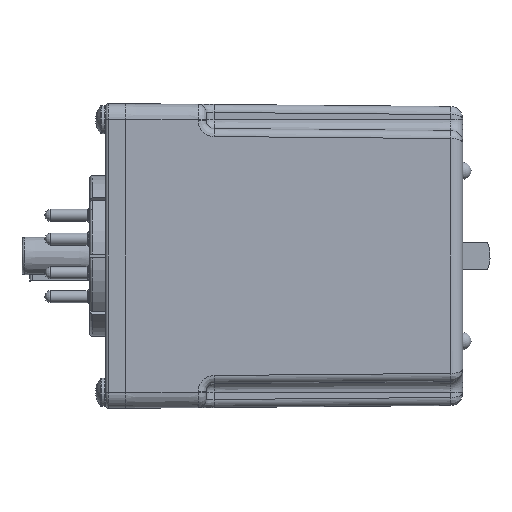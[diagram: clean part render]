
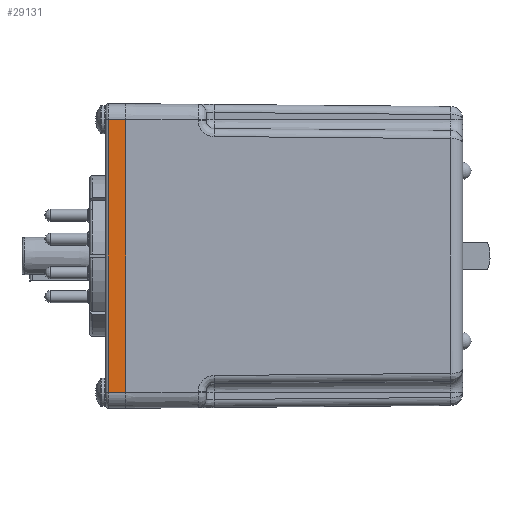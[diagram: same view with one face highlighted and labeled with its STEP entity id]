
A CAD part, left-side view. The second image highlights one B-rep face of the part: STEP entity #29131.
In plain terms, the highlighted planar face has unit normal (-1, 0, 0).
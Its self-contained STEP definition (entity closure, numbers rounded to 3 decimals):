
#8993 = PLANE('',#8994);
#8994 = AXIS2_PLACEMENT_3D('',#8995,#8996,#8997);
#8995 = CARTESIAN_POINT('',(-22.225,100.736,-30.163));
#8996 = DIRECTION('',(0.,1.,0.));
#8997 = DIRECTION('',(1.,0.,-0.));
#15916 = VERTEX_POINT('',#15917);
#15917 = CARTESIAN_POINT('',(-22.225,100.736,26.988));
#15936 = CYLINDRICAL_SURFACE('',#15937,3.175);
#15937 = AXIS2_PLACEMENT_3D('',#15938,#15939,#15940);
#15938 = CARTESIAN_POINT('',(-19.05,100.736,26.988));
#15939 = DIRECTION('',(0.,1.,0.));
#15940 = DIRECTION('',(0.,0.,-1.));
#15948 = EDGE_CURVE('',#15949,#15916,#15951,.T.);
#15949 = VERTEX_POINT('',#15950);
#15950 = CARTESIAN_POINT('',(-22.225,100.736,-26.988));
#15951 = SURFACE_CURVE('',#15952,(#15956,#15963),.PCURVE_S1.);
#15952 = LINE('',#15953,#15954);
#15953 = CARTESIAN_POINT('',(-22.225,100.736,-30.163));
#15954 = VECTOR('',#15955,1.);
#15955 = DIRECTION('',(0.,-0.,1.));
#15956 = PCURVE('',#8993,#15957);
#15957 = DEFINITIONAL_REPRESENTATION('',(#15958),#15962);
#15958 = LINE('',#15959,#15960);
#15959 = CARTESIAN_POINT('',(0.,0.));
#15960 = VECTOR('',#15961,1.);
#15961 = DIRECTION('',(0.,-1.));
#15962 = ( GEOMETRIC_REPRESENTATION_CONTEXT(2) 
PARAMETRIC_REPRESENTATION_CONTEXT() REPRESENTATION_CONTEXT('2D SPACE',''
  ) );
#15963 = PCURVE('',#15964,#15969);
#15964 = PLANE('',#15965);
#15965 = AXIS2_PLACEMENT_3D('',#15966,#15967,#15968);
#15966 = CARTESIAN_POINT('',(-22.225,100.736,-30.163));
#15967 = DIRECTION('',(1.,0.,0.));
#15968 = DIRECTION('',(0.,0.,-1.));
#15969 = DEFINITIONAL_REPRESENTATION('',(#15970),#15974);
#15970 = LINE('',#15971,#15972);
#15971 = CARTESIAN_POINT('',(0.,0.));
#15972 = VECTOR('',#15973,1.);
#15973 = DIRECTION('',(-1.,0.));
#15974 = ( GEOMETRIC_REPRESENTATION_CONTEXT(2) 
PARAMETRIC_REPRESENTATION_CONTEXT() REPRESENTATION_CONTEXT('2D SPACE',''
  ) );
#15997 = CYLINDRICAL_SURFACE('',#15998,3.175);
#15998 = AXIS2_PLACEMENT_3D('',#15999,#16000,#16001);
#15999 = CARTESIAN_POINT('',(-19.05,104.699,-26.988));
#16000 = DIRECTION('',(0.,-1.,0.));
#16001 = DIRECTION('',(0.,0.,1.));
#24210 = CYLINDRICAL_SURFACE('',#24211,0.508);
#24211 = AXIS2_PLACEMENT_3D('',#24212,#24213,#24214);
#24212 = CARTESIAN_POINT('',(-21.717,104.191,-30.163));
#24213 = DIRECTION('',(0.,0.,1.));
#24214 = DIRECTION('',(1.,0.,0.));
#29131 = ADVANCED_FACE('',(#29132),#15964,.F.);
#29132 = FACE_BOUND('',#29133,.T.);
#29133 = EDGE_LOOP('',(#29134,#29157,#29180,#29201));
#29134 = ORIENTED_EDGE('',*,*,#29135,.T.);
#29135 = EDGE_CURVE('',#15916,#29136,#29138,.T.);
#29136 = VERTEX_POINT('',#29137);
#29137 = CARTESIAN_POINT('',(-22.225,104.191,26.988));
#29138 = SURFACE_CURVE('',#29139,(#29143,#29150),.PCURVE_S1.);
#29139 = LINE('',#29140,#29141);
#29140 = CARTESIAN_POINT('',(-22.225,100.736,26.988));
#29141 = VECTOR('',#29142,1.);
#29142 = DIRECTION('',(0.,1.,0.));
#29143 = PCURVE('',#15964,#29144);
#29144 = DEFINITIONAL_REPRESENTATION('',(#29145),#29149);
#29145 = LINE('',#29146,#29147);
#29146 = CARTESIAN_POINT('',(-57.15,0.));
#29147 = VECTOR('',#29148,1.);
#29148 = DIRECTION('',(0.,1.));
#29149 = ( GEOMETRIC_REPRESENTATION_CONTEXT(2) 
PARAMETRIC_REPRESENTATION_CONTEXT() REPRESENTATION_CONTEXT('2D SPACE',''
  ) );
#29150 = PCURVE('',#15936,#29151);
#29151 = DEFINITIONAL_REPRESENTATION('',(#29152),#29156);
#29152 = LINE('',#29153,#29154);
#29153 = CARTESIAN_POINT('',(1.571,0.));
#29154 = VECTOR('',#29155,1.);
#29155 = DIRECTION('',(0.,1.));
#29156 = ( GEOMETRIC_REPRESENTATION_CONTEXT(2) 
PARAMETRIC_REPRESENTATION_CONTEXT() REPRESENTATION_CONTEXT('2D SPACE',''
  ) );
#29157 = ORIENTED_EDGE('',*,*,#29158,.T.);
#29158 = EDGE_CURVE('',#29136,#29159,#29161,.T.);
#29159 = VERTEX_POINT('',#29160);
#29160 = CARTESIAN_POINT('',(-22.225,104.191,-26.988));
#29161 = SURFACE_CURVE('',#29162,(#29166,#29173),.PCURVE_S1.);
#29162 = LINE('',#29163,#29164);
#29163 = CARTESIAN_POINT('',(-22.225,104.191,-30.163));
#29164 = VECTOR('',#29165,1.);
#29165 = DIRECTION('',(0.,0.,-1.));
#29166 = PCURVE('',#15964,#29167);
#29167 = DEFINITIONAL_REPRESENTATION('',(#29168),#29172);
#29168 = LINE('',#29169,#29170);
#29169 = CARTESIAN_POINT('',(0.,3.454));
#29170 = VECTOR('',#29171,1.);
#29171 = DIRECTION('',(1.,0.));
#29172 = ( GEOMETRIC_REPRESENTATION_CONTEXT(2) 
PARAMETRIC_REPRESENTATION_CONTEXT() REPRESENTATION_CONTEXT('2D SPACE',''
  ) );
#29173 = PCURVE('',#24210,#29174);
#29174 = DEFINITIONAL_REPRESENTATION('',(#29175),#29179);
#29175 = LINE('',#29176,#29177);
#29176 = CARTESIAN_POINT('',(3.142,0.));
#29177 = VECTOR('',#29178,1.);
#29178 = DIRECTION('',(0.,-1.));
#29179 = ( GEOMETRIC_REPRESENTATION_CONTEXT(2) 
PARAMETRIC_REPRESENTATION_CONTEXT() REPRESENTATION_CONTEXT('2D SPACE',''
  ) );
#29180 = ORIENTED_EDGE('',*,*,#29181,.T.);
#29181 = EDGE_CURVE('',#29159,#15949,#29182,.T.);
#29182 = SURFACE_CURVE('',#29183,(#29187,#29194),.PCURVE_S1.);
#29183 = LINE('',#29184,#29185);
#29184 = CARTESIAN_POINT('',(-22.225,100.736,-26.988));
#29185 = VECTOR('',#29186,1.);
#29186 = DIRECTION('',(0.,-1.,0.));
#29187 = PCURVE('',#15964,#29188);
#29188 = DEFINITIONAL_REPRESENTATION('',(#29189),#29193);
#29189 = LINE('',#29190,#29191);
#29190 = CARTESIAN_POINT('',(-3.175,0.));
#29191 = VECTOR('',#29192,1.);
#29192 = DIRECTION('',(0.,-1.));
#29193 = ( GEOMETRIC_REPRESENTATION_CONTEXT(2) 
PARAMETRIC_REPRESENTATION_CONTEXT() REPRESENTATION_CONTEXT('2D SPACE',''
  ) );
#29194 = PCURVE('',#15997,#29195);
#29195 = DEFINITIONAL_REPRESENTATION('',(#29196),#29200);
#29196 = LINE('',#29197,#29198);
#29197 = CARTESIAN_POINT('',(1.571,3.962));
#29198 = VECTOR('',#29199,1.);
#29199 = DIRECTION('',(0.,1.));
#29200 = ( GEOMETRIC_REPRESENTATION_CONTEXT(2) 
PARAMETRIC_REPRESENTATION_CONTEXT() REPRESENTATION_CONTEXT('2D SPACE',''
  ) );
#29201 = ORIENTED_EDGE('',*,*,#15948,.T.);
